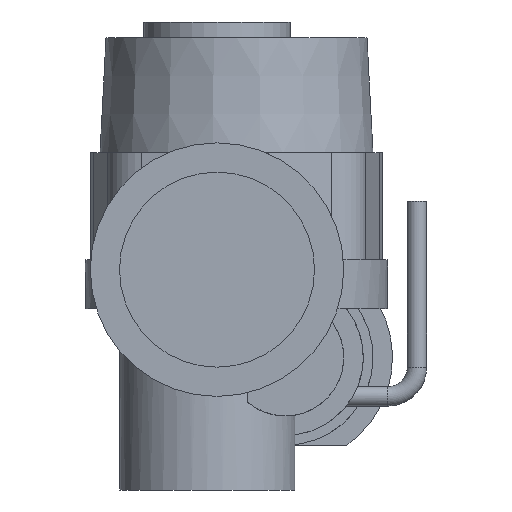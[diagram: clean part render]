
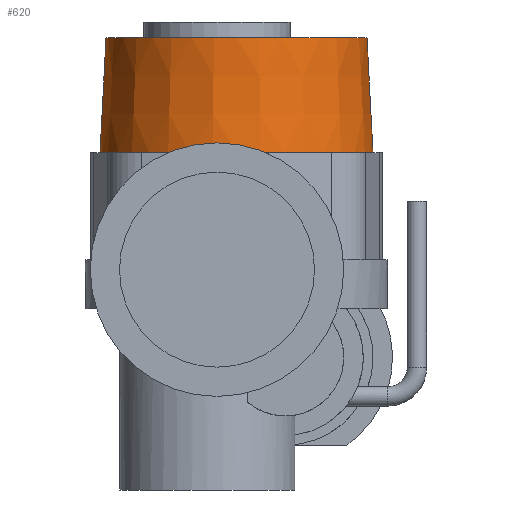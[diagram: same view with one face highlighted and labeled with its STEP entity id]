
A CAD part, front view. The second image highlights one B-rep face of the part: STEP entity #620.
In plain terms, the highlighted conical face has half-angle 3 degrees and reference radius 68.454 mm.
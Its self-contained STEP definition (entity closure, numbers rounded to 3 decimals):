
#620=ADVANCED_FACE('',(#1458,#1460),#1462,.T.);
#1458=FACE_OUTER_BOUND('',#1459,.T.);
#1459=EDGE_LOOP('',(#2050));
#1460=FACE_OUTER_BOUND('',#1461,.T.);
#1461=EDGE_LOOP('',(#2051));
#1462=CONICAL_SURFACE('',#1463,68.454,0.052);
#1463=AXIS2_PLACEMENT_3D('',#1464,#1465,#1466);
#1464=CARTESIAN_POINT('',(0.,0.,84.5));
#1465=DIRECTION('',(-0.,-0.,-1.));
#1466=DIRECTION('',(1.,0.,-0.));
#2050=ORIENTED_EDGE('',*,*,#2353,.F.);
#2051=ORIENTED_EDGE('',*,*,#2350,.T.);
#2350=EDGE_CURVE('',#2666,#2666,#2667,.T.);
#2353=EDGE_CURVE('',#2672,#2672,#2673,.T.);
#2666=VERTEX_POINT('',#4024);
#2667=CIRCLE('',#4025,70.);
#2672=VERTEX_POINT('',#4039);
#2673=CIRCLE('',#4040,66.908);
#4024=CARTESIAN_POINT('',(-70.,0.,55.));
#4025=AXIS2_PLACEMENT_3D('',#4026,#4027,#4028);
#4026=CARTESIAN_POINT('',(0.,0.,55.));
#4027=DIRECTION('',(0.,0.,1.));
#4028=DIRECTION('',(-1.,0.,0.));
#4039=CARTESIAN_POINT('',(-66.908,0.,114.));
#4040=AXIS2_PLACEMENT_3D('',#4041,#4042,#4043);
#4041=CARTESIAN_POINT('',(0.,0.,114.));
#4042=DIRECTION('',(0.,0.,1.));
#4043=DIRECTION('',(-1.,0.,0.));
